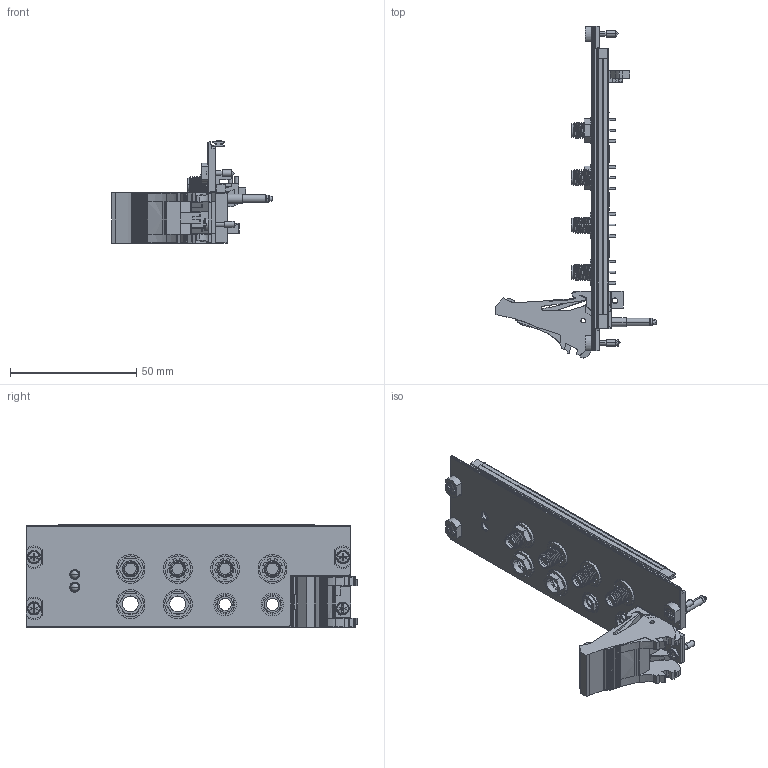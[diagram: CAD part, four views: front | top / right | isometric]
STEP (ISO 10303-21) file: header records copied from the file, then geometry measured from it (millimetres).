
FILE_DESCRIPTION((''),'2;1');
FILE_NAME('CU_PXIE-5450','2009-11-10T',('jjorden'),(''),'PRO/ENGINEER BY PARAMETRIC TECHNOLOGY CORPORATION, 2006080','PRO/ENGINEER BY PARAMETRIC TECHNOLOGY CORPORATION, 2006080','');
FILE_SCHEMA(('CONFIG_CONTROL_DESIGN'));
Length unit declared in the file: inch
Products named in the file (1): CU_PXIE-5450
Bounding box: 63.53 x 131.51 x 40.61 mm (x, y, z)
Volume: 26532.3 mm3; surface area: 26091.9 mm2
Topology: 3 solids, 3 shells, 1996 faces, 5581 edges, 3516 vertices
Faces by surface type: plane 1189, cylinder 655, cone 70, bspline 58, sphere 12, torus 8, extrusion 4
Entity records: 83911 total; most frequent: CARTESIAN_POINT 33055, ORIENTED_EDGE 11138, DIRECTION 9975, EDGE_CURVE 5569, VECTOR 3583, LINE 3579, VERTEX_POINT 3516, AXIS2_PLACEMENT_3D 3196
